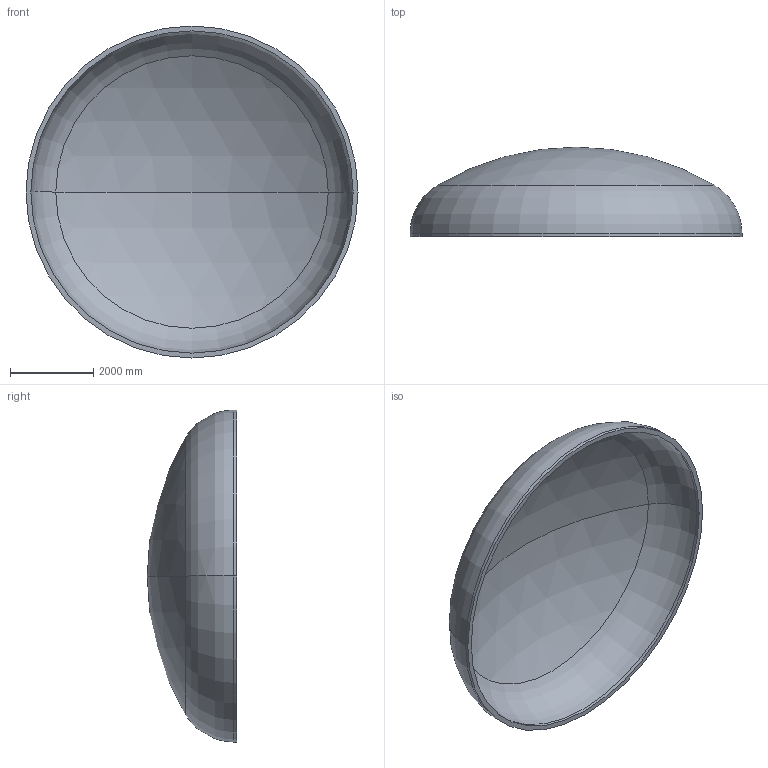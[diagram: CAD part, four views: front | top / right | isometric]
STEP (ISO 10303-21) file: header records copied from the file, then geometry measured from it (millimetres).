
FILE_DESCRIPTION (( 'STEP AP203' ), '1' );
FILE_NAME ('DIN 28013 Korbbogenform_-_Boden DIN 28013 - 8000 x 75 - I - s=118.step', '2016-07-04T11:06:10', ( '' ), ( '' ), 'SwSTEP 2.0', 'SolidWorks 2013', '' );
FILE_SCHEMA (( 'CONFIG_CONTROL_DESIGN' ));
Length unit declared in the file: millimetre
Products named in the file (1): DIN 28013 Korbbogenform_-_Boden DIN 28013 - 8000 x 75 - I - s=118
Bounding box: 8000 x 2155.01 x 8000 mm (x, y, z)
Volume: 8272880832.3 mm3; surface area: 143169347.5 mm2
Topology: 1 solids, 1 shells, 13 faces, 24 edges, 14 vertices
Faces by surface type: torus 4, cylinder 4, sphere 4, plane 1
Entity records: 407 total; most frequent: DIRECTION 72, CARTESIAN_POINT 52, ORIENTED_EDGE 48, AXIS2_PLACEMENT_3D 34, EDGE_CURVE 24, CIRCLE 20, VERTEX_POINT 14, EDGE_LOOP 14
